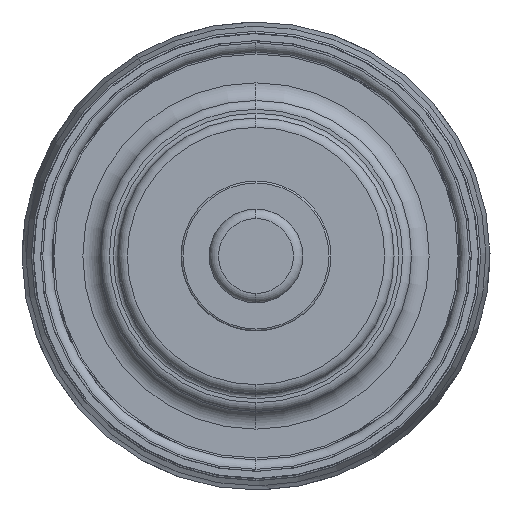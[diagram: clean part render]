
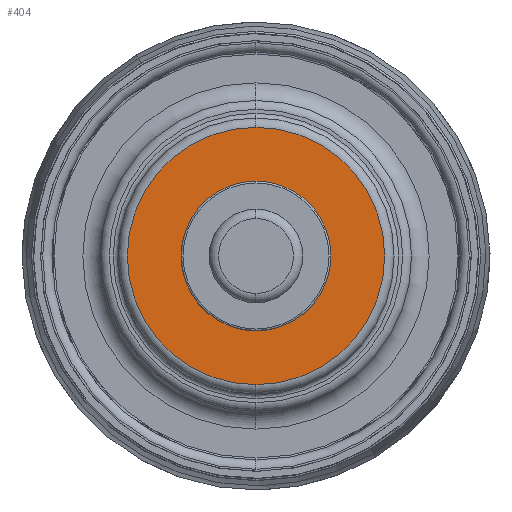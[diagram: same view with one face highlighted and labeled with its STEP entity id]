
A CAD part, left-side view. The second image highlights one B-rep face of the part: STEP entity #404.
In plain terms, the highlighted planar face has unit normal (-1, 0, 0).
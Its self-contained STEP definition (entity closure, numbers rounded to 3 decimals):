
#316 = VERTEX_POINT ( 'NONE', #999 ) ;
#318 = EDGE_CURVE ( 'NONE', #319, #316, #998, .T. ) ;
#319 = VERTEX_POINT ( 'NONE', #993 ) ;
#379 = VERTEX_POINT ( 'NONE', #1083 ) ;
#381 = EDGE_CURVE ( 'NONE', #379, #382, #1082, .T. ) ;
#382 = VERTEX_POINT ( 'NONE', #1141 ) ;
#404 = ADVANCED_FACE ( 'NONE', ( #1158, #1157 ), #1156, .T. ) ;
#405 = EDGE_LOOP ( 'NONE', ( #406, #407 ) ) ;
#406 = ORIENTED_EDGE ( 'NONE', *, *, #318, .T. ) ;
#407 = ORIENTED_EDGE ( 'NONE', *, *, #408, .T. ) ;
#408 = EDGE_CURVE ( 'NONE', #316, #319, #1151, .T. ) ;
#409 = EDGE_LOOP ( 'NONE', ( #410, #412 ) ) ;
#410 = ORIENTED_EDGE ( 'NONE', *, *, #411, .F. ) ;
#411 = EDGE_CURVE ( 'NONE', #382, #379, #1146, .T. ) ;
#412 = ORIENTED_EDGE ( 'NONE', *, *, #381, .F. ) ;
#993 = CARTESIAN_POINT ( 'NONE',  ( -1., 0., 13.75 ) ) ;
#994 = DIRECTION ( 'NONE',  ( 0., 0., 1. ) ) ;
#995 = DIRECTION ( 'NONE',  ( -1., 0., 0. ) ) ;
#996 = CARTESIAN_POINT ( 'NONE',  ( -1., 0., 0. ) ) ;
#997 = AXIS2_PLACEMENT_3D ( 'NONE', #996, #995, #994 ) ;
#998 = CIRCLE ( 'NONE', #997, 13.75 ) ;
#999 = CARTESIAN_POINT ( 'NONE',  ( -1., 0., -13.75 ) ) ;
#1081 = AXIS2_PLACEMENT_3D ( 'NONE', #1144, #1143, #1142 ) ;
#1082 = CIRCLE ( 'NONE', #1081, 8. ) ;
#1083 = CARTESIAN_POINT ( 'NONE',  ( -1., 0., 8. ) ) ;
#1141 = CARTESIAN_POINT ( 'NONE',  ( -1., 0., -8. ) ) ;
#1142 = DIRECTION ( 'NONE',  ( 0., 0., 1. ) ) ;
#1143 = DIRECTION ( 'NONE',  ( -1., 0., 0. ) ) ;
#1144 = CARTESIAN_POINT ( 'NONE',  ( -1., 0., 0. ) ) ;
#1145 = CARTESIAN_POINT ( 'NONE',  ( -1., 0., 0. ) ) ;
#1146 = CIRCLE ( 'NONE', #1207, 8. ) ;
#1147 = DIRECTION ( 'NONE',  ( 0., 0., 1. ) ) ;
#1148 = DIRECTION ( 'NONE',  ( -1., 0., 0. ) ) ;
#1149 = CARTESIAN_POINT ( 'NONE',  ( -1., 0., 0. ) ) ;
#1150 = AXIS2_PLACEMENT_3D ( 'NONE', #1149, #1148, #1147 ) ;
#1151 = CIRCLE ( 'NONE', #1150, 13.75 ) ;
#1152 = DIRECTION ( 'NONE',  ( 0., 0., 1. ) ) ;
#1153 = DIRECTION ( 'NONE',  ( -1., 0., 0. ) ) ;
#1154 = CARTESIAN_POINT ( 'NONE',  ( -1., 0., 0. ) ) ;
#1155 = AXIS2_PLACEMENT_3D ( 'NONE', #1154, #1153, #1152 ) ;
#1156 = PLANE ( 'NONE',  #1155 ) ;
#1157 = FACE_BOUND ( 'NONE', #409, .T. ) ;
#1158 = FACE_OUTER_BOUND ( 'NONE', #405, .T. ) ;
#1205 = DIRECTION ( 'NONE',  ( 0., 0., 1. ) ) ;
#1206 = DIRECTION ( 'NONE',  ( -1., 0., 0. ) ) ;
#1207 = AXIS2_PLACEMENT_3D ( 'NONE', #1145, #1206, #1205 ) ;
